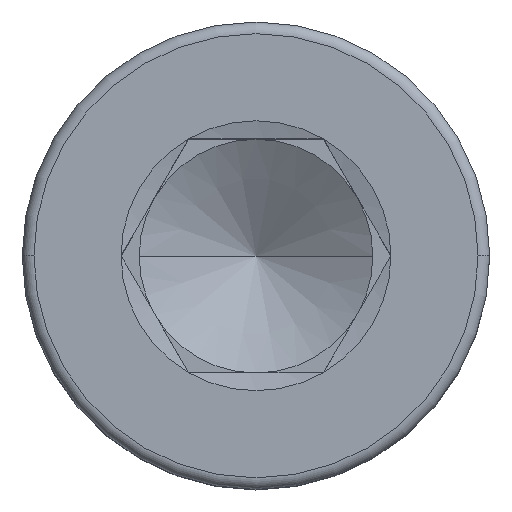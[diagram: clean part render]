
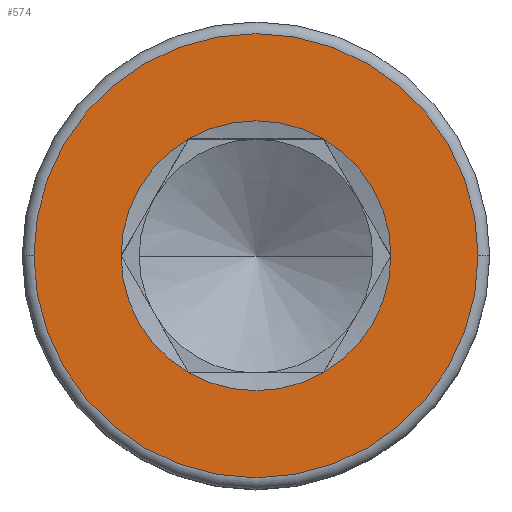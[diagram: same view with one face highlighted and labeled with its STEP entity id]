
A CAD part, top view. The second image highlights one B-rep face of the part: STEP entity #574.
In plain terms, the highlighted planar face has unit normal (0, 0, 1).
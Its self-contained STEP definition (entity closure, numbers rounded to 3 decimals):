
#15 = DIRECTION ( 'NONE',  ( 0., 0., 1. ) ) ;
#21 = AXIS2_PLACEMENT_3D ( 'NONE', #1462, #1091, #1100 ) ;
#43 = DIRECTION ( 'NONE',  ( 1., 0., 0. ) ) ;
#63 = DIRECTION ( 'NONE',  ( 1., 0., 0. ) ) ;
#143 = DIRECTION ( 'NONE',  ( 0., 0., 1. ) ) ;
#147 = VERTEX_POINT ( 'NONE', #1249 ) ;
#189 = DIRECTION ( 'NONE',  ( 0., 0., 1. ) ) ;
#199 = EDGE_CURVE ( 'NONE', #220, #462, #1599, .T. ) ;
#200 = VERTEX_POINT ( 'NONE', #1259 ) ;
#220 = VERTEX_POINT ( 'NONE', #655 ) ;
#275 = DIRECTION ( 'NONE',  ( 1., 0., 0. ) ) ;
#287 = CIRCLE ( 'NONE', #1261, 2.887 ) ;
#290 = CARTESIAN_POINT ( 'NONE',  ( 0., 0., 6. ) ) ;
#296 = CARTESIAN_POINT ( 'NONE',  ( 0., 0., 6. ) ) ;
#346 = CARTESIAN_POINT ( 'NONE',  ( 0., 0., 6. ) ) ;
#372 = CIRCLE ( 'NONE', #811, 4.75 ) ;
#376 = EDGE_CURVE ( 'NONE', #1211, #590, #758, .T. ) ;
#409 = CARTESIAN_POINT ( 'NONE',  ( 0., 0., 6. ) ) ;
#455 = CIRCLE ( 'NONE', #1365, 2.887 ) ;
#462 = VERTEX_POINT ( 'NONE', #515 ) ;
#471 = EDGE_LOOP ( 'NONE', ( #1570, #1064, #1385, #1488, #1533, #1149 ) ) ;
#515 = CARTESIAN_POINT ( 'NONE',  ( 1.443, -2.5, 6. ) ) ;
#562 = CARTESIAN_POINT ( 'NONE',  ( 2.887, 0., 6. ) ) ;
#574 = ADVANCED_FACE ( 'NONE', ( #1324, #906 ), #930, .T. ) ;
#590 = VERTEX_POINT ( 'NONE', #1306 ) ;
#618 = CARTESIAN_POINT ( 'NONE',  ( 4.75, 0., 6. ) ) ;
#650 = DIRECTION ( 'NONE',  ( 1., 0., 0. ) ) ;
#655 = CARTESIAN_POINT ( 'NONE',  ( -1.443, -2.5, 6. ) ) ;
#660 = DIRECTION ( 'NONE',  ( 0., 0., 1. ) ) ;
#676 = DIRECTION ( 'NONE',  ( 0., 0., 1. ) ) ;
#691 = VERTEX_POINT ( 'NONE', #562 ) ;
#753 = ORIENTED_EDGE ( 'NONE', *, *, #1038, .T. ) ;
#758 = CIRCLE ( 'NONE', #1063, 2.887 ) ;
#792 = DIRECTION ( 'NONE',  ( 1., 0., 0. ) ) ;
#811 = AXIS2_PLACEMENT_3D ( 'NONE', #1192, #15, #1066 ) ;
#906 = FACE_BOUND ( 'NONE', #471, .T. ) ;
#923 = CIRCLE ( 'NONE', #1142, 2.887 ) ;
#926 = CIRCLE ( 'NONE', #1369, 2.887 ) ;
#929 = CARTESIAN_POINT ( 'NONE',  ( 0., 0., 6. ) ) ;
#930 = PLANE ( 'NONE',  #1067 ) ;
#937 = DIRECTION ( 'NONE',  ( 0., 0., 1. ) ) ;
#977 = EDGE_CURVE ( 'NONE', #691, #1211, #923, .T. ) ;
#1038 = EDGE_CURVE ( 'NONE', #1224, #200, #372, .T. ) ;
#1048 = ORIENTED_EDGE ( 'NONE', *, *, #1141, .T. ) ;
#1063 = AXIS2_PLACEMENT_3D ( 'NONE', #346, #1500, #1138 ) ;
#1064 = ORIENTED_EDGE ( 'NONE', *, *, #1379, .F. ) ;
#1066 = DIRECTION ( 'NONE',  ( 1., 0., 0. ) ) ;
#1067 = AXIS2_PLACEMENT_3D ( 'NONE', #1426, #143, #792 ) ;
#1084 = EDGE_LOOP ( 'NONE', ( #753, #1048 ) ) ;
#1091 = DIRECTION ( 'NONE',  ( 0., 0., 1. ) ) ;
#1100 = DIRECTION ( 'NONE',  ( 1., 0., 0. ) ) ;
#1138 = DIRECTION ( 'NONE',  ( 1., 0., 0. ) ) ;
#1141 = EDGE_CURVE ( 'NONE', #200, #1224, #1495, .T. ) ;
#1142 = AXIS2_PLACEMENT_3D ( 'NONE', #296, #660, #650 ) ;
#1149 = ORIENTED_EDGE ( 'NONE', *, *, #376, .F. ) ;
#1192 = CARTESIAN_POINT ( 'NONE',  ( 0., 0., 6. ) ) ;
#1211 = VERTEX_POINT ( 'NONE', #1270 ) ;
#1224 = VERTEX_POINT ( 'NONE', #618 ) ;
#1231 = AXIS2_PLACEMENT_3D ( 'NONE', #1273, #1383, #63 ) ;
#1249 = CARTESIAN_POINT ( 'NONE',  ( -2.887, 0., 6. ) ) ;
#1259 = CARTESIAN_POINT ( 'NONE',  ( -4.75, 0., 6. ) ) ;
#1261 = AXIS2_PLACEMENT_3D ( 'NONE', #290, #189, #43 ) ;
#1270 = CARTESIAN_POINT ( 'NONE',  ( 1.443, 2.5, 6. ) ) ;
#1273 = CARTESIAN_POINT ( 'NONE',  ( 0., 0., 6. ) ) ;
#1292 = EDGE_CURVE ( 'NONE', #590, #147, #455, .T. ) ;
#1306 = CARTESIAN_POINT ( 'NONE',  ( -1.443, 2.5, 6. ) ) ;
#1324 = FACE_OUTER_BOUND ( 'NONE', #1084, .T. ) ;
#1365 = AXIS2_PLACEMENT_3D ( 'NONE', #409, #937, #275 ) ;
#1369 = AXIS2_PLACEMENT_3D ( 'NONE', #929, #676, #1448 ) ;
#1379 = EDGE_CURVE ( 'NONE', #462, #691, #287, .T. ) ;
#1383 = DIRECTION ( 'NONE',  ( 0., 0., 1. ) ) ;
#1385 = ORIENTED_EDGE ( 'NONE', *, *, #199, .F. ) ;
#1426 = CARTESIAN_POINT ( 'NONE',  ( 0., 0., 6. ) ) ;
#1448 = DIRECTION ( 'NONE',  ( 1., 0., 0. ) ) ;
#1462 = CARTESIAN_POINT ( 'NONE',  ( 0., 0., 6. ) ) ;
#1488 = ORIENTED_EDGE ( 'NONE', *, *, #1581, .F. ) ;
#1495 = CIRCLE ( 'NONE', #21, 4.75 ) ;
#1500 = DIRECTION ( 'NONE',  ( 0., 0., 1. ) ) ;
#1533 = ORIENTED_EDGE ( 'NONE', *, *, #1292, .F. ) ;
#1570 = ORIENTED_EDGE ( 'NONE', *, *, #977, .F. ) ;
#1581 = EDGE_CURVE ( 'NONE', #147, #220, #926, .T. ) ;
#1599 = CIRCLE ( 'NONE', #1231, 2.887 ) ;
